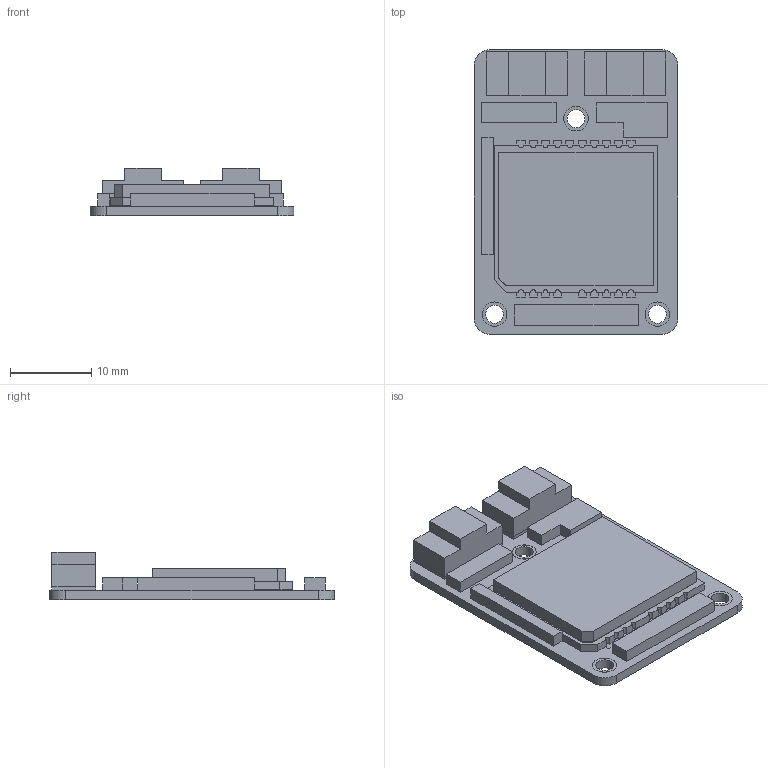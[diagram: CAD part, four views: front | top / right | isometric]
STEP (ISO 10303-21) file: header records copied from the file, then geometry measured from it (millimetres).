
FILE_DESCRIPTION (( 'STEP AP203' ), '1' );
FILE_NAME ('EVAL-HI06-3D.STEP', '2025-09-18T01:48:13', ( '' ), ( '' ), 'SwSTEP 2.0', 'SolidWorks 2016', '' );
FILE_SCHEMA (( 'CONFIG_CONTROL_DESIGN' ));
Length unit declared in the file: millimetre
Products named in the file (1): EVAL-HI06-3D
Bounding box: 25 x 35 x 5.89 mm (x, y, z)
Volume: 1823.3 mm3; surface area: 4305.5 mm2
Topology: 5 solids, 5 shells, 395 faces, 1008 edges, 672 vertices
Faces by surface type: plane 312, cylinder 83
Entity records: 11929 total; most frequent: CARTESIAN_POINT 2076, ORIENTED_EDGE 2016, DIRECTION 1966, EDGE_CURVE 1008, LINE 842, VECTOR 842, VERTEX_POINT 672, AXIS2_PLACEMENT_3D 562
